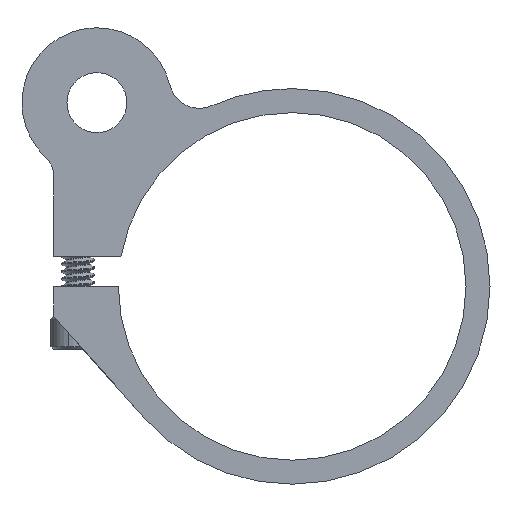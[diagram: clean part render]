
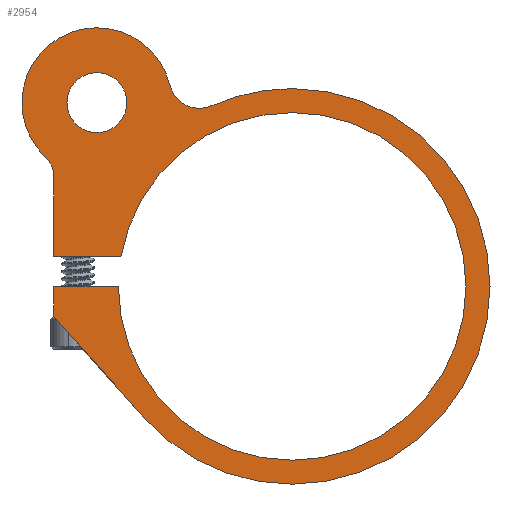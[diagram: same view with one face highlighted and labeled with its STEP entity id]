
A CAD part, front view. The second image highlights one B-rep face of the part: STEP entity #2954.
In plain terms, the highlighted planar face has unit normal (0, -1, 0).
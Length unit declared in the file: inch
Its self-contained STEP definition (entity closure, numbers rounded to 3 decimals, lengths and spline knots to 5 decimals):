
#150 = CARTESIAN_POINT ( 'NONE',  ( -0.995, 0., 0.125 ) ) ;
#163 = DIRECTION ( 'NONE',  ( 0., 0., 1. ) ) ;
#179 = AXIS2_PLACEMENT_3D ( 'NONE', #5574, #544, #1646 ) ;
#205 = EDGE_CURVE ( 'NONE', #5987, #6910, #1566, .T. ) ;
#214 = VERTEX_POINT ( 'NONE', #5170 ) ;
#294 = EDGE_CURVE ( 'NONE', #6434, #2233, #1645, .T. ) ;
#346 = DIRECTION ( 'NONE',  ( 0., 1., 0. ) ) ;
#427 = CIRCLE ( 'NONE', #4337, 0.725 ) ;
#450 = EDGE_CURVE ( 'NONE', #214, #1959, #3061, .T. ) ;
#544 = DIRECTION ( 'NONE',  ( 0., 1., 0. ) ) ;
#627 = EDGE_CURVE ( 'NONE', #5290, #1177, #7009, .T. ) ;
#658 = CARTESIAN_POINT ( 'NONE',  ( -0.995, 0., -0.125 ) ) ;
#720 = EDGE_CURVE ( 'NONE', #2188, #5290, #6669, .T. ) ;
#738 = CIRCLE ( 'NONE', #6245, 0.125 ) ;
#750 = CARTESIAN_POINT ( 'NONE',  ( -0.8146, 0., 0.7663 ) ) ;
#759 = CARTESIAN_POINT ( 'NONE',  ( -1.02846, 0., 0.53844 ) ) ;
#769 = CARTESIAN_POINT ( 'NONE',  ( -0.8146, 0., 0.7663 ) ) ;
#897 = EDGE_CURVE ( 'NONE', #7088, #4421, #2355, .T. ) ;
#939 = AXIS2_PLACEMENT_3D ( 'NONE', #4384, #3167, #2603 ) ;
#1000 = VERTEX_POINT ( 'NONE', #3667 ) ;
#1065 = ORIENTED_EDGE ( 'NONE', *, *, #1881, .F. ) ;
#1122 = CARTESIAN_POINT ( 'NONE',  ( 0., 0., 0. ) ) ;
#1177 = VERTEX_POINT ( 'NONE', #1845 ) ;
#1337 = LINE ( 'NONE', #1769, #6872 ) ;
#1394 = VECTOR ( 'NONE', #2846, 39.37008 ) ;
#1417 = DIRECTION ( 'NONE',  ( 0., 0., 1. ) ) ;
#1454 = EDGE_CURVE ( 'NONE', #4554, #214, #4250, .T. ) ;
#1471 = LINE ( 'NONE', #4127, #4779 ) ;
#1522 = EDGE_LOOP ( 'NONE', ( #3313, #1867 ) ) ;
#1566 = CIRCLE ( 'NONE', #5221, 0.125 ) ;
#1582 = AXIS2_PLACEMENT_3D ( 'NONE', #1122, #5022, #1678 ) ;
#1644 = CARTESIAN_POINT ( 'NONE',  ( -0.33478, 0., 0.75402 ) ) ;
#1645 = CIRCLE ( 'NONE', #4270, 0.128 ) ;
#1646 = DIRECTION ( 'NONE',  ( 0., 0., 1. ) ) ;
#1671 = DIRECTION ( 'NONE',  ( 0., 0., 1. ) ) ;
#1678 = DIRECTION ( 'NONE',  ( 0., 0., 1. ) ) ;
#1680 = ORIENTED_EDGE ( 'NONE', *, *, #1454, .F. ) ;
#1769 = CARTESIAN_POINT ( 'NONE',  ( -0.995, 0., 0.125 ) ) ;
#1787 = CIRCLE ( 'NONE', #179, 0.825 ) ;
#1845 = CARTESIAN_POINT ( 'NONE',  ( -0.725, 0., 0. ) ) ;
#1848 = DIRECTION ( 'NONE',  ( 0., -1., 0. ) ) ;
#1867 = ORIENTED_EDGE ( 'NONE', *, *, #205, .T. ) ;
#1881 = EDGE_CURVE ( 'NONE', #6615, #2400, #1471, .T. ) ;
#1959 = VERTEX_POINT ( 'NONE', #2513 ) ;
#1983 = CIRCLE ( 'NONE', #6651, 0.725 ) ;
#2077 = FACE_BOUND ( 'NONE', #1522, .T. ) ;
#2139 = DIRECTION ( 'NONE',  ( 0., 1., 0. ) ) ;
#2182 = DIRECTION ( 'NONE',  ( 0., 0., 1. ) ) ;
#2188 = VERTEX_POINT ( 'NONE', #2786 ) ;
#2233 = VERTEX_POINT ( 'NONE', #2334 ) ;
#2334 = CARTESIAN_POINT ( 'NONE',  ( -0.51106, 0., 0.84058 ) ) ;
#2355 = CIRCLE ( 'NONE', #939, 0.106 ) ;
#2400 = VERTEX_POINT ( 'NONE', #150 ) ;
#2447 = VECTOR ( 'NONE', #2929, 39.37008 ) ;
#2479 = CARTESIAN_POINT ( 'NONE',  ( 0., 0., 0.825 ) ) ;
#2513 = CARTESIAN_POINT ( 'NONE',  ( -0.61495, 0., -0.54996 ) ) ;
#2536 = EDGE_CURVE ( 'NONE', #5637, #6615, #2950, .T. ) ;
#2603 = DIRECTION ( 'NONE',  ( 0., 0., 1. ) ) ;
#2631 = CARTESIAN_POINT ( 'NONE',  ( -0.995, 0., 0. ) ) ;
#2636 = ORIENTED_EDGE ( 'NONE', *, *, #450, .F. ) ;
#2786 = CARTESIAN_POINT ( 'NONE',  ( -0.995, 0., -0.125 ) ) ;
#2831 = DIRECTION ( 'NONE',  ( 0., -1., 0. ) ) ;
#2846 = DIRECTION ( 'NONE',  ( 1., 0., 0. ) ) ;
#2871 = ORIENTED_EDGE ( 'NONE', *, *, #4162, .F. ) ;
#2929 = DIRECTION ( 'NONE',  ( 0., 0., 1. ) ) ;
#2950 = CIRCLE ( 'NONE', #1582, 0.725 ) ;
#2954 = ADVANCED_FACE ( 'NONE', ( #2077, #6402 ), #6648, .F. ) ;
#3061 = CIRCLE ( 'NONE', #3454, 0.825 ) ;
#3070 = CARTESIAN_POINT ( 'NONE',  ( 0., 0., 0.725 ) ) ;
#3167 = DIRECTION ( 'NONE',  ( 0., 1., 0. ) ) ;
#3261 = DIRECTION ( 'NONE',  ( 0., 0., 1. ) ) ;
#3313 = ORIENTED_EDGE ( 'NONE', *, *, #6853, .T. ) ;
#3332 = CARTESIAN_POINT ( 'NONE',  ( -0.8146, 0., 0.6413 ) ) ;
#3381 = DIRECTION ( 'NONE',  ( -0.667, 0., 0.745 ) ) ;
#3454 = AXIS2_PLACEMENT_3D ( 'NONE', #4969, #6183, #1671 ) ;
#3501 = CARTESIAN_POINT ( 'NONE',  ( -0.725, 0., 0. ) ) ;
#3667 = CARTESIAN_POINT ( 'NONE',  ( 0., 0., -0.725 ) ) ;
#3743 = CARTESIAN_POINT ( 'NONE',  ( 0., 0., 0. ) ) ;
#3860 = ORIENTED_EDGE ( 'NONE', *, *, #7080, .F. ) ;
#3869 = ORIENTED_EDGE ( 'NONE', *, *, #4768, .F. ) ;
#4073 = DIRECTION ( 'NONE',  ( 0., 0., 1. ) ) ;
#4127 = CARTESIAN_POINT ( 'NONE',  ( -0.71414, 0., 0.125 ) ) ;
#4158 = CARTESIAN_POINT ( 'NONE',  ( -0.71414, 0., 0.125 ) ) ;
#4162 = EDGE_CURVE ( 'NONE', #1000, #5637, #1983, .T. ) ;
#4163 = DIRECTION ( 'NONE',  ( 0., 1., 0. ) ) ;
#4216 = ORIENTED_EDGE ( 'NONE', *, *, #294, .T. ) ;
#4250 = CIRCLE ( 'NONE', #6054, 0.825 ) ;
#4270 = AXIS2_PLACEMENT_3D ( 'NONE', #4719, #4163, #1417 ) ;
#4277 = DIRECTION ( 'NONE',  ( 0., 0., 1. ) ) ;
#4337 = AXIS2_PLACEMENT_3D ( 'NONE', #6316, #1848, #5721 ) ;
#4384 = CARTESIAN_POINT ( 'NONE',  ( -1.101, 0., 0.46115 ) ) ;
#4411 = ORIENTED_EDGE ( 'NONE', *, *, #4415, .F. ) ;
#4415 = EDGE_CURVE ( 'NONE', #1177, #1000, #427, .T. ) ;
#4421 = VERTEX_POINT ( 'NONE', #6875 ) ;
#4430 = ORIENTED_EDGE ( 'NONE', *, *, #5382, .F. ) ;
#4554 = VERTEX_POINT ( 'NONE', #2479 ) ;
#4619 = ORIENTED_EDGE ( 'NONE', *, *, #5571, .F. ) ;
#4646 = CIRCLE ( 'NONE', #5758, 0.3125 ) ;
#4647 = DIRECTION ( 'NONE',  ( 0., 1., 0. ) ) ;
#4648 = EDGE_LOOP ( 'NONE', ( #4411, #6379, #5686, #3869, #2636, #1680, #4430, #4216, #4619, #6880, #3860, #1065, #6559, #2871 ) ) ;
#4719 = CARTESIAN_POINT ( 'NONE',  ( -0.38673, 0., 0.87101 ) ) ;
#4768 = EDGE_CURVE ( 'NONE', #1959, #2188, #5058, .T. ) ;
#4779 = VECTOR ( 'NONE', #5852, 39.37008 ) ;
#4844 = DIRECTION ( 'NONE',  ( 0., 1., 0. ) ) ;
#4913 = CARTESIAN_POINT ( 'NONE',  ( -0.8146, 0., 0.8913 ) ) ;
#4944 = CARTESIAN_POINT ( 'NONE',  ( -0.8146, 0., 0.7663 ) ) ;
#4969 = CARTESIAN_POINT ( 'NONE',  ( 0., 0., 0. ) ) ;
#5022 = DIRECTION ( 'NONE',  ( 0., -1., 0. ) ) ;
#5058 = LINE ( 'NONE', #658, #7160 ) ;
#5101 = CARTESIAN_POINT ( 'NONE',  ( 0., 0., 0. ) ) ;
#5170 = CARTESIAN_POINT ( 'NONE',  ( 0., 0., -0.825 ) ) ;
#5221 = AXIS2_PLACEMENT_3D ( 'NONE', #750, #4647, #163 ) ;
#5264 = DIRECTION ( 'NONE',  ( 0., 1., 0. ) ) ;
#5290 = VERTEX_POINT ( 'NONE', #2631 ) ;
#5300 = AXIS2_PLACEMENT_3D ( 'NONE', #3743, #4844, #3261 ) ;
#5382 = EDGE_CURVE ( 'NONE', #6434, #4554, #1787, .T. ) ;
#5571 = EDGE_CURVE ( 'NONE', #7088, #2233, #4646, .T. ) ;
#5574 = CARTESIAN_POINT ( 'NONE',  ( 0., 0., 0. ) ) ;
#5637 = VERTEX_POINT ( 'NONE', #3070 ) ;
#5686 = ORIENTED_EDGE ( 'NONE', *, *, #720, .F. ) ;
#5721 = DIRECTION ( 'NONE',  ( 0., 0., 1. ) ) ;
#5732 = CARTESIAN_POINT ( 'NONE',  ( -0.995, 0., 0. ) ) ;
#5758 = AXIS2_PLACEMENT_3D ( 'NONE', #769, #5264, #5830 ) ;
#5830 = DIRECTION ( 'NONE',  ( 0., 0., 1. ) ) ;
#5852 = DIRECTION ( 'NONE',  ( -1., 0., 0. ) ) ;
#5987 = VERTEX_POINT ( 'NONE', #3332 ) ;
#6054 = AXIS2_PLACEMENT_3D ( 'NONE', #7040, #346, #4277 ) ;
#6183 = DIRECTION ( 'NONE',  ( 0., 1., 0. ) ) ;
#6245 = AXIS2_PLACEMENT_3D ( 'NONE', #4944, #2139, #2182 ) ;
#6316 = CARTESIAN_POINT ( 'NONE',  ( 0., 0., 0. ) ) ;
#6325 = DIRECTION ( 'NONE',  ( 0., 0., 1. ) ) ;
#6379 = ORIENTED_EDGE ( 'NONE', *, *, #627, .F. ) ;
#6402 = FACE_OUTER_BOUND ( 'NONE', #4648, .T. ) ;
#6434 = VERTEX_POINT ( 'NONE', #1644 ) ;
#6559 = ORIENTED_EDGE ( 'NONE', *, *, #2536, .F. ) ;
#6615 = VERTEX_POINT ( 'NONE', #4158 ) ;
#6648 = PLANE ( 'NONE',  #5300 ) ;
#6651 = AXIS2_PLACEMENT_3D ( 'NONE', #5101, #2831, #6325 ) ;
#6669 = LINE ( 'NONE', #5732, #2447 ) ;
#6853 = EDGE_CURVE ( 'NONE', #6910, #5987, #738, .T. ) ;
#6872 = VECTOR ( 'NONE', #4073, 39.37008 ) ;
#6875 = CARTESIAN_POINT ( 'NONE',  ( -0.995, 0., 0.46115 ) ) ;
#6880 = ORIENTED_EDGE ( 'NONE', *, *, #897, .T. ) ;
#6910 = VERTEX_POINT ( 'NONE', #4913 ) ;
#7009 = LINE ( 'NONE', #3501, #1394 ) ;
#7040 = CARTESIAN_POINT ( 'NONE',  ( 0., 0., 0. ) ) ;
#7080 = EDGE_CURVE ( 'NONE', #2400, #4421, #1337, .T. ) ;
#7088 = VERTEX_POINT ( 'NONE', #759 ) ;
#7160 = VECTOR ( 'NONE', #3381, 39.37008 ) ;
